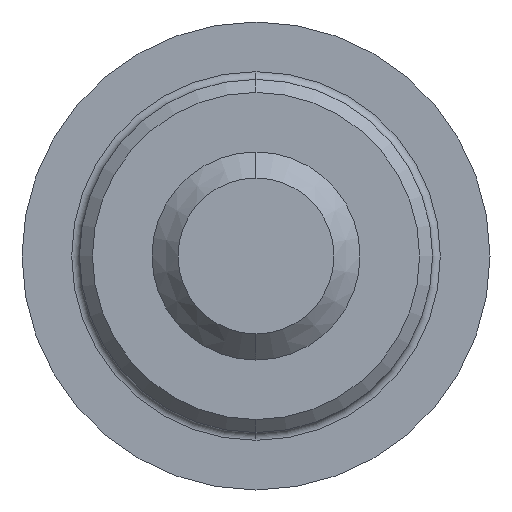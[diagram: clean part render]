
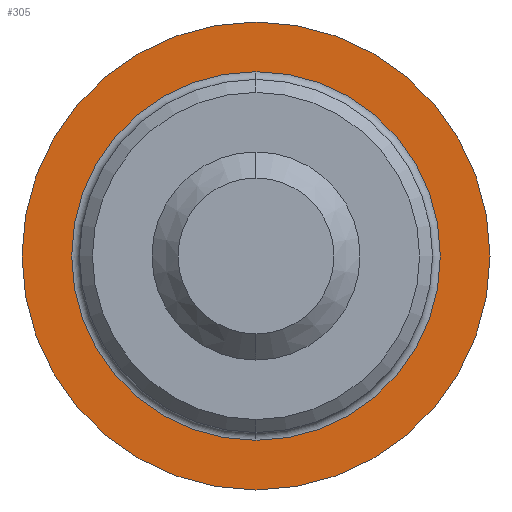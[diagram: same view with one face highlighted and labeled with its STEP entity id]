
A CAD part, left-side view. The second image highlights one B-rep face of the part: STEP entity #305.
In plain terms, the highlighted planar face has unit normal (-1, 0, 0).
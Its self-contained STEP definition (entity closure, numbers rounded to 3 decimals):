
#36 = DIRECTION ( 'NONE',  ( -1., 0., 0. ) ) ;
#37 = DIRECTION ( 'NONE',  ( -1., 0., 0. ) ) ;
#63 = VERTEX_POINT ( 'NONE', #358 ) ;
#104 = AXIS2_PLACEMENT_3D ( 'NONE', #720, #196, #296 ) ;
#119 = AXIS2_PLACEMENT_3D ( 'NONE', #329, #251, #933 ) ;
#130 = CARTESIAN_POINT ( 'NONE',  ( -35., 0., 9. ) ) ;
#147 = ORIENTED_EDGE ( 'NONE', *, *, #245, .T. ) ;
#185 = AXIS2_PLACEMENT_3D ( 'NONE', #409, #36, #347 ) ;
#196 = DIRECTION ( 'NONE',  ( 1., 0., 0. ) ) ;
#201 = CIRCLE ( 'NONE', #185, 9. ) ;
#245 = EDGE_CURVE ( 'NONE', #832, #63, #657, .T. ) ;
#251 = DIRECTION ( 'NONE',  ( 1., 0., 0. ) ) ;
#272 = CARTESIAN_POINT ( 'NONE',  ( -35., 0., 0. ) ) ;
#296 = DIRECTION ( 'NONE',  ( 0., 0., -1. ) ) ;
#305 = ADVANCED_FACE ( 'NONE', ( #678, #771 ), #624, .F. ) ;
#329 = CARTESIAN_POINT ( 'NONE',  ( -35., 6.79, 0. ) ) ;
#334 = DIRECTION ( 'NONE',  ( 0., 0., -1. ) ) ;
#347 = DIRECTION ( 'NONE',  ( 0., 0., 1. ) ) ;
#350 = EDGE_CURVE ( 'NONE', #782, #617, #584, .T. ) ;
#358 = CARTESIAN_POINT ( 'NONE',  ( -35., 0., -7.09 ) ) ;
#386 = AXIS2_PLACEMENT_3D ( 'NONE', #272, #37, #575 ) ;
#409 = CARTESIAN_POINT ( 'NONE',  ( -35., 0., 0. ) ) ;
#411 = ORIENTED_EDGE ( 'NONE', *, *, #577, .T. ) ;
#414 = EDGE_LOOP ( 'NONE', ( #411, #524 ) ) ;
#458 = EDGE_LOOP ( 'NONE', ( #755, #147 ) ) ;
#524 = ORIENTED_EDGE ( 'NONE', *, *, #350, .T. ) ;
#546 = CARTESIAN_POINT ( 'NONE',  ( -35., 0., 0. ) ) ;
#574 = CIRCLE ( 'NONE', #104, 7.09 ) ;
#575 = DIRECTION ( 'NONE',  ( 0., 0., 1. ) ) ;
#577 = EDGE_CURVE ( 'NONE', #617, #782, #201, .T. ) ;
#584 = CIRCLE ( 'NONE', #386, 9. ) ;
#617 = VERTEX_POINT ( 'NONE', #130 ) ;
#618 = CARTESIAN_POINT ( 'NONE',  ( -35., 0., -9. ) ) ;
#624 = PLANE ( 'NONE',  #119 ) ;
#632 = EDGE_CURVE ( 'NONE', #63, #832, #574, .T. ) ;
#643 = AXIS2_PLACEMENT_3D ( 'NONE', #546, #759, #334 ) ;
#650 = CARTESIAN_POINT ( 'NONE',  ( -35., 0., 7.09 ) ) ;
#657 = CIRCLE ( 'NONE', #643, 7.09 ) ;
#678 = FACE_BOUND ( 'NONE', #458, .T. ) ;
#720 = CARTESIAN_POINT ( 'NONE',  ( -35., 0., 0. ) ) ;
#755 = ORIENTED_EDGE ( 'NONE', *, *, #632, .T. ) ;
#759 = DIRECTION ( 'NONE',  ( 1., 0., 0. ) ) ;
#771 = FACE_OUTER_BOUND ( 'NONE', #414, .T. ) ;
#782 = VERTEX_POINT ( 'NONE', #618 ) ;
#832 = VERTEX_POINT ( 'NONE', #650 ) ;
#933 = DIRECTION ( 'NONE',  ( 0., 0., -1. ) ) ;
